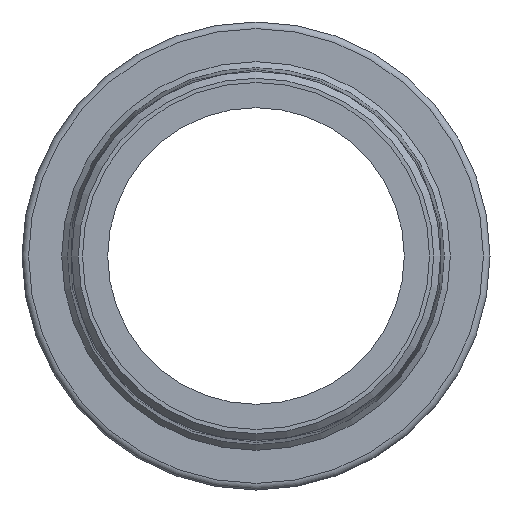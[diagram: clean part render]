
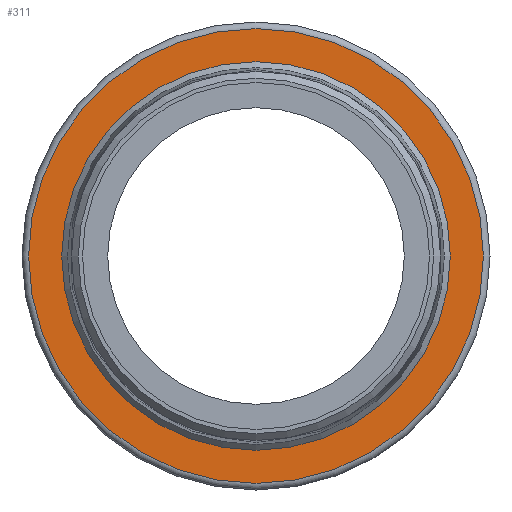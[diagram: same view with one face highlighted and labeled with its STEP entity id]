
A CAD part, front view. The second image highlights one B-rep face of the part: STEP entity #311.
In plain terms, the highlighted planar face has unit normal (0, -1, 0).
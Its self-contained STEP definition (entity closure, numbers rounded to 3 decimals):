
#47=PLANE('',#366);
#80=ORIENTED_EDGE('',*,*,#106,.T.);
#81=ORIENTED_EDGE('',*,*,#105,.F.);
#105=EDGE_CURVE('',#125,#125,#145,.T.);
#106=EDGE_CURVE('',#126,#126,#146,.T.);
#125=VERTEX_POINT('',#515);
#126=VERTEX_POINT('',#518);
#145=CIRCLE('',#365,57.15);
#146=CIRCLE('',#367,69.);
#180=EDGE_LOOP('',(#80));
#181=EDGE_LOOP('',(#81));
#220=FACE_BOUND('',#180,.T.);
#221=FACE_BOUND('',#181,.T.);
#311=ADVANCED_FACE('',(#220,#221),#47,.T.);
#365=AXIS2_PLACEMENT_3D('',#514,#445,#446);
#366=AXIS2_PLACEMENT_3D('',#516,#447,#448);
#367=AXIS2_PLACEMENT_3D('',#517,#449,#450);
#445=DIRECTION('',(0.,-1.,0.));
#446=DIRECTION('',(0.,0.,-1.));
#447=DIRECTION('',(0.,-1.,0.));
#448=DIRECTION('',(0.,0.,-1.));
#449=DIRECTION('',(0.,-1.,0.));
#450=DIRECTION('',(0.,0.,-1.));
#514=CARTESIAN_POINT('',(0.,0.,0.));
#515=CARTESIAN_POINT('',(0.,0.,-57.15));
#516=CARTESIAN_POINT('',(0.,0.,57.15));
#517=CARTESIAN_POINT('',(0.,0.,0.));
#518=CARTESIAN_POINT('',(0.,0.,-69.));
